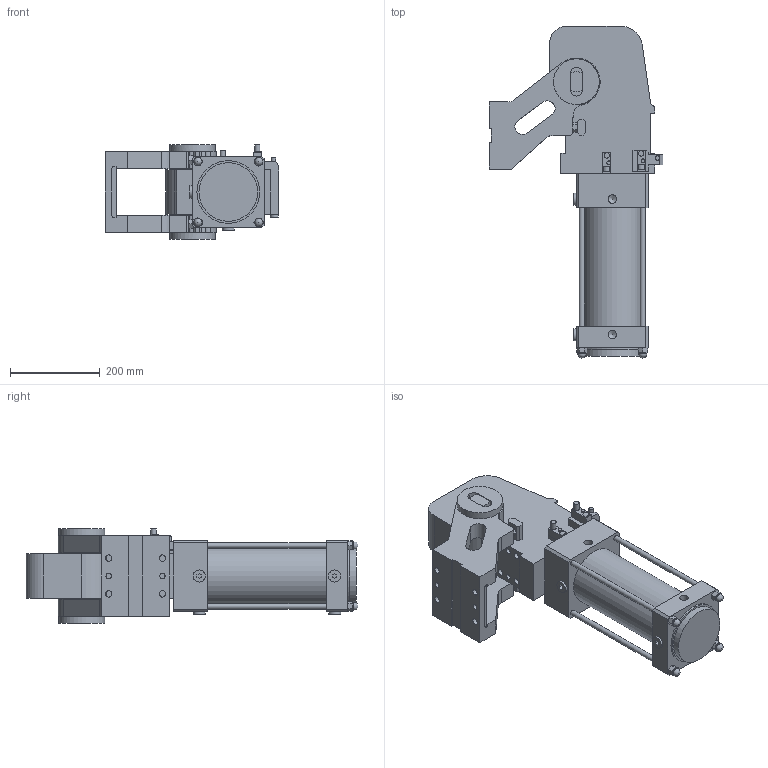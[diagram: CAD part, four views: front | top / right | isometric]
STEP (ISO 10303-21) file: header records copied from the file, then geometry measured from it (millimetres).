
FILE_DESCRIPTION(/* description */ (''),/* implementation_level */ '2;1');
FILE_NAME(/* name */ 'S:\Tom\INVENTOR FILES\AUTOMOTIVE\VEP\DUMP UNITS\C05.P015 RFM.2-RF.2\C05.P015 RFM.2-RF.2\RFM125\SATs\XPUZ125.2-129-1-ESL-P-G-X.stp',/* time_stamp */ '2018-07-29T17:32:20+01:00',/* author */ ('carl'),/* organization */ (''),/* preprocessor_version */ 'ST-DEVELOPER v16.13',/* originating_system */ 'Autodesk Inventor 2018',/* authorisation */ '');
FILE_SCHEMA (('AUTOMOTIVE_DESIGN { 1 0 10303 214 3 1 1 }'));
Length unit declared in the file: millimetre
Products named in the file (11): XPUZ125.2-129-1-ESL-P-G-X_TOP; XPUZ125; XPUZ125_1; XPUZ125_2; XPUZ125_3; XPUZ125_4; XPUZ125_5; XPUZ125_6; XPUZ125_7; XPUZ125_8; XPUZ125_9
Assembly tree (10 placements, depth 2):
  XPUZ125.2-129-1-ESL-P-G-X_TOP
    XPUZ125
    XPUZ125_1
    XPUZ125_2
    XPUZ125_3
    XPUZ125_4
    XPUZ125_5
    XPUZ125_6
    XPUZ125_7
    XPUZ125_8
    XPUZ125_9
Bounding box: 388 x 741 x 212 mm (x, y, z)
Volume: 16709663.6 mm3; surface area: 895729.4 mm2
Topology: 10 solids, 10 shells, 388 faces, 954 edges, 627 vertices
Faces by surface type: plane 264, cylinder 102, cone 18, sphere 4
Full cylindrical faces by diameter (mm): 5.5 x2, 8.5 x2, 10 x3, 10.2 x1, 11.8 x2, 12 x12, 13 x1, 14 x12, 18 x5, 19 x6, 20.6 x4, 27 x4, 45 x1, 50.5 x1, 60 x2, 102 x2, 130 x1, 131 x1, 140 x1
Entity records: 11149 total; most frequent: DIRECTION 1868, CARTESIAN_POINT 1847, ORIENTED_EDGE 1680, EDGE_CURVE 840, LINE 630, VECTOR 630, AXIS2_PLACEMENT_3D 619, VERTEX_POINT 598
